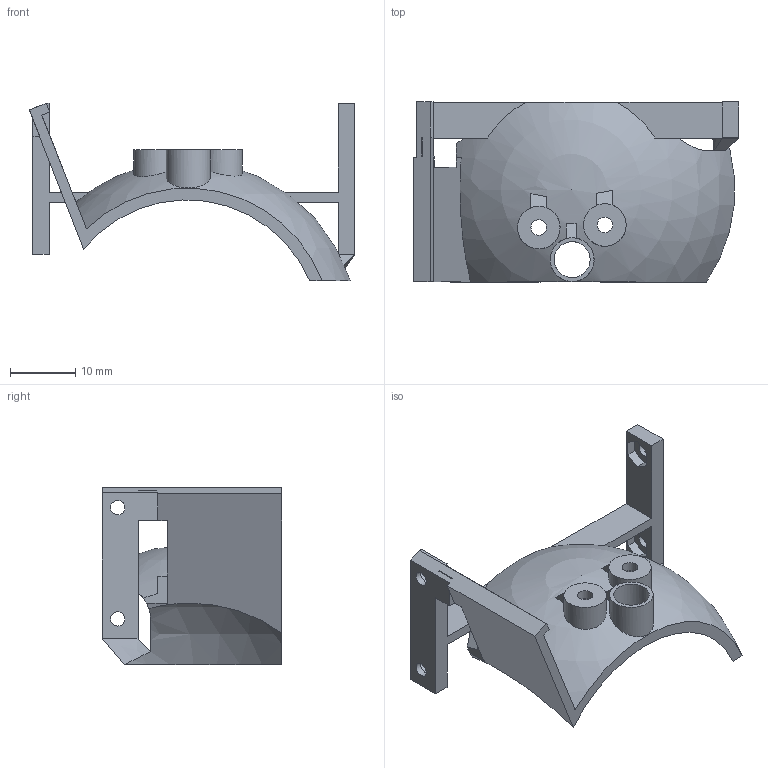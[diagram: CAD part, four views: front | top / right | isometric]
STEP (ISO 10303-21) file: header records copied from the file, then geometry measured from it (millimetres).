
FILE_DESCRIPTION(/* description */ (''),/* implementation_level */ '2;1');
FILE_NAME(/* name */ 'C:/Users/priba/Downloads/GripperJaw.step',/* time_stamp */ '2020-11-25T21:14:53+01:00',/* author */ (''),/* organization */ (''),/* preprocessor_version */ 'ST-DEVELOPER v18.1',/* originating_system */ 'Autodesk Translation Framework v9.3.0.1241',/* authorisation */ '');
FILE_SCHEMA (('AUTOMOTIVE_DESIGN { 1 0 10303 214 3 1 1 }'));
Length unit declared in the file: millimetre
Products named in the file (2): GripperJaw; Jaw
Assembly tree (1 placements, depth 2):
  GripperJaw
    Jaw
Bounding box: 49.73 x 27.5 x 27.09 mm (x, y, z)
Volume: 3275.9 mm3; surface area: 5066.4 mm2
Topology: 1 solids, 1 shells, 112 faces, 315 edges, 207 vertices
Faces by surface type: plane 94, cylinder 12, sphere 4, bspline 2
Full cylindrical faces by diameter (mm): 2.2 x4, 2.4 x2, 5.5 x1, 6.5 x2, 6.7 x1
Entity records: 3863 total; most frequent: CARTESIAN_POINT 864, ORIENTED_EDGE 626, DIRECTION 596, EDGE_CURVE 313, LINE 224, VECTOR 224, VERTEX_POINT 207, AXIS2_PLACEMENT_3D 186
